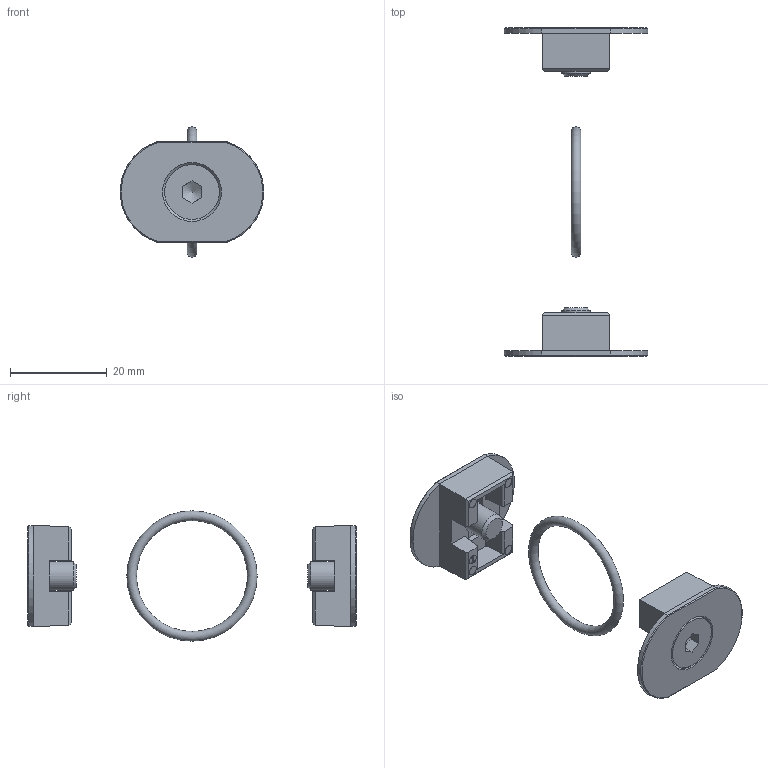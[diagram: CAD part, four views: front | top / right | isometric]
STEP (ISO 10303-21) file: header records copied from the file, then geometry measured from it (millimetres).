
FILE_DESCRIPTION((''),'2;1');
FILE_NAME('K:\ZEICHNG\webgrafik.intern\Air-Techniques Befestigungen und Behälter\step\KP.33.stp','2013-06-21T09:30:51',('RJanz'),(''),'Autodesk Inventor 2013','Autodesk Inventor 2013','');
FILE_SCHEMA(('CONFIG_CONTROL_DESIGN'));
Length unit declared in the file: millimetre
Products named in the file (1): Bauteil1
Bounding box: 29.72 x 68 x 27 mm (x, y, z)
Volume: 4653.9 mm3; surface area: 4619.6 mm2
Topology: 3 solids, 3 shells, 179 faces, 460 edges, 301 vertices
Faces by surface type: plane 124, cylinder 36, cone 16, bspline 2, torus 1
Full cylindrical faces by diameter (mm): 2 x10, 6 x2, 11.34 x2, 12.2 x2
Entity records: 5451 total; most frequent: CARTESIAN_POINT 1017, ORIENTED_EDGE 860, DIRECTION 838, EDGE_CURVE 430, VECTOR 298, LINE 298, VERTEX_POINT 295, AXIS2_PLACEMENT_3D 270
